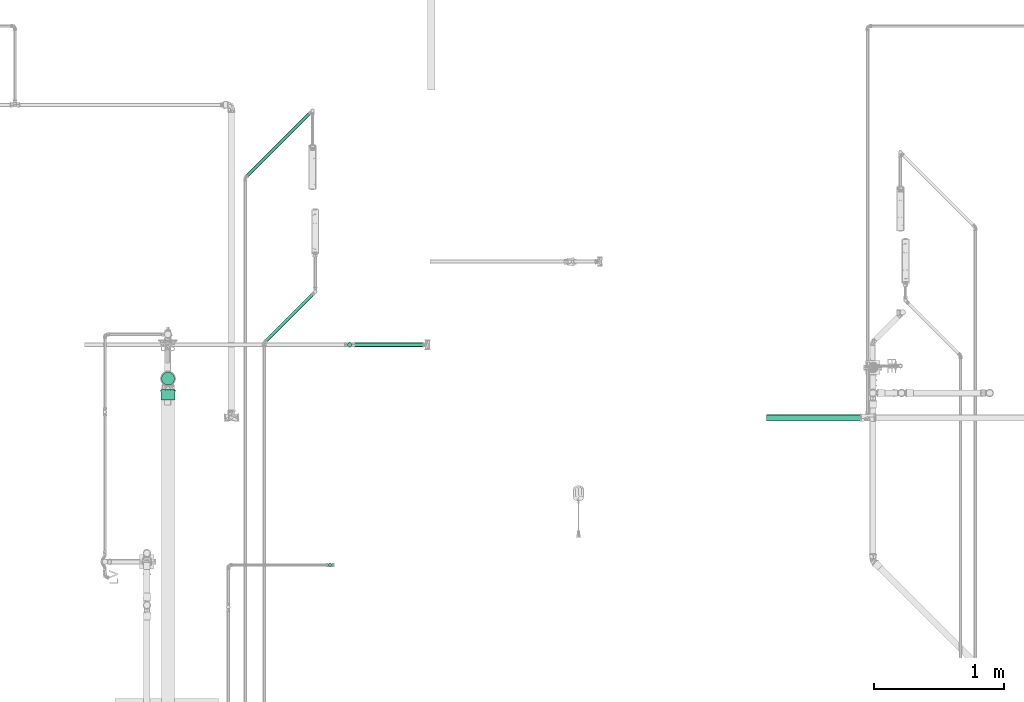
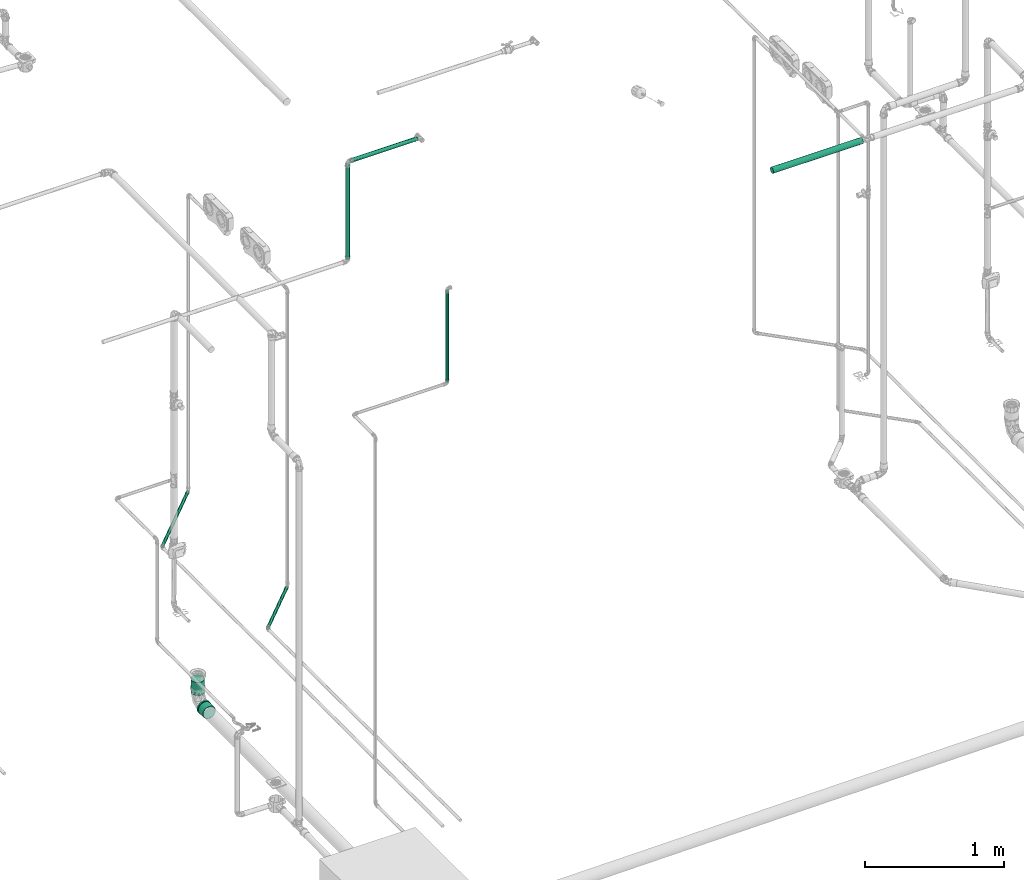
# One storey, part 60 of 589: 7 flow segments, 1 flow fitting.
"""IFC2X3 building model written with IfcOpenShell, lengths in millimetres."""

from ifc_helpers import new_model, entity, si_unit, converted_unit, derived_unit, direction, frame, frame_2d, origin, origin_2d_with_axis, place, context, subcontext, project, spatial, circle, extrude, faceted_brep, source, transform, mapped, material, type_object, type_shapes, element, save


model = new_model("IFC2X3")

# Units and contexts
model_context = context("Model", 3, precision=0.01, world=origin(), true_north=direction((6.123031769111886e-17, 1.0)))
body_context = subcontext(model_context, "Body", "Model", "MODEL_VIEW")
ifc_project = project(units=[si_unit("LENGTHUNIT", "METRE", prefix="MILLI"), si_unit("AREAUNIT", "SQUARE_METRE"), si_unit("VOLUMEUNIT", "CUBIC_METRE"), converted_unit("PLANEANGLEUNIT", "DEGREE", entity("IfcRatioMeasure", 0.017453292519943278), si_unit("PLANEANGLEUNIT", "RADIAN"), dimensions=[0, 0, 0, 0, 0, 0, 0]), si_unit("MASSUNIT", "GRAM", prefix="KILO"), derived_unit("MASSDENSITYUNIT", [(si_unit("MASSUNIT", "GRAM", prefix="KILO"), 1), (si_unit("LENGTHUNIT", "METRE"), -3)]), derived_unit("IONCONCENTRATIONUNIT", [(si_unit("MASSUNIT", "GRAM", prefix="KILO"), 1), (si_unit("LENGTHUNIT", "METRE"), -3)]), derived_unit("MOMENTOFINERTIAUNIT", [(si_unit("LENGTHUNIT", "METRE"), 4)]), si_unit("TIMEUNIT", "SECOND"), si_unit("FREQUENCYUNIT", "HERTZ"), si_unit("THERMODYNAMICTEMPERATUREUNIT", "DEGREE_CELSIUS"), derived_unit("THERMALTRANSMITTANCEUNIT", [(si_unit("MASSUNIT", "GRAM", prefix="KILO"), 1), (si_unit("THERMODYNAMICTEMPERATUREUNIT", "KELVIN"), -1), (si_unit("TIMEUNIT", "SECOND"), -3)]), derived_unit("THERMALCONDUCTANCEUNIT", [(si_unit("MASSUNIT", "GRAM", prefix="KILO"), 1), (si_unit("THERMODYNAMICTEMPERATUREUNIT", "KELVIN"), -1), (si_unit("TIMEUNIT", "SECOND"), -3), (si_unit("LENGTHUNIT", "METRE"), 1)]), derived_unit("VOLUMETRICFLOWRATEUNIT", [(si_unit("LENGTHUNIT", "METRE"), 3), (si_unit("TIMEUNIT", "SECOND"), -1)]), derived_unit("MASSFLOWRATEUNIT", [(si_unit("MASSUNIT", "GRAM", prefix="KILO"), 1), (si_unit("TIMEUNIT", "SECOND"), -1)]), derived_unit("ROTATIONALFREQUENCYUNIT", [(si_unit("TIMEUNIT", "SECOND"), -1)]), si_unit("ELECTRICCURRENTUNIT", "AMPERE"), si_unit("ELECTRICVOLTAGEUNIT", "VOLT"), si_unit("POWERUNIT", "WATT"), si_unit("FORCEUNIT", "NEWTON", prefix="KILO"), si_unit("ILLUMINANCEUNIT", "LUX"), si_unit("LUMINOUSFLUXUNIT", "LUMEN"), si_unit("LUMINOUSINTENSITYUNIT", "CANDELA"), derived_unit("USERDEFINED", [(si_unit("MASSUNIT", "GRAM", prefix="KILO"), -1), (si_unit("LENGTHUNIT", "METRE"), -2), (si_unit("TIMEUNIT", "SECOND"), 3), (si_unit("LUMINOUSFLUXUNIT", "LUMEN"), 1)]), derived_unit("USERDEFINED", [(si_unit("MASSUNIT", "GRAM", prefix="KILO"), 1), (si_unit("TIMEUNIT", "SECOND"), -3), (si_unit("LENGTHUNIT", "METRE"), 3), (si_unit("ELECTRICCURRENTUNIT", "AMPERE"), -2)]), derived_unit("SOUNDPOWERUNIT", [(si_unit("MASSUNIT", "GRAM", prefix="KILO"), 1), (si_unit("TIMEUNIT", "SECOND"), -3), (si_unit("LENGTHUNIT", "METRE"), 2)]), derived_unit("SOUNDPRESSUREUNIT", [(si_unit("MASSUNIT", "GRAM", prefix="KILO"), 1), (si_unit("LENGTHUNIT", "METRE"), -1), (si_unit("TIMEUNIT", "SECOND"), -2)]), derived_unit("LINEARVELOCITYUNIT", [(si_unit("LENGTHUNIT", "METRE"), 1), (si_unit("TIMEUNIT", "SECOND"), -1)]), si_unit("PRESSUREUNIT", "PASCAL"), derived_unit("USERDEFINED", [(si_unit("MASSUNIT", "GRAM", prefix="KILO"), 1), (si_unit("LENGTHUNIT", "METRE"), -2), (si_unit("TIMEUNIT", "SECOND"), -2)]), derived_unit("LINEARFORCEUNIT", [(si_unit("MASSUNIT", "GRAM", prefix="KILO"), 1), (si_unit("TIMEUNIT", "SECOND"), -2)]), derived_unit("PLANARFORCEUNIT", [(si_unit("MASSUNIT", "GRAM", prefix="KILO"), 1), (si_unit("LENGTHUNIT", "METRE"), -1), (si_unit("TIMEUNIT", "SECOND"), -2)]), derived_unit("SPECIFICHEATCAPACITYUNIT", [(si_unit("THERMODYNAMICTEMPERATUREUNIT", "KELVIN"), -1), (si_unit("LENGTHUNIT", "METRE"), 2), (si_unit("TIMEUNIT", "SECOND"), -2)]), derived_unit("HEATINGVALUEUNIT", [(si_unit("LENGTHUNIT", "METRE"), 2), (si_unit("TIMEUNIT", "SECOND"), -2)]), derived_unit("VAPORPERMEABILITYUNIT", [(si_unit("LENGTHUNIT", "METRE"), -1), (si_unit("TIMEUNIT", "SECOND"), 1)]), derived_unit("DYNAMICVISCOSITYUNIT", [(si_unit("MASSUNIT", "GRAM", prefix="KILO"), 1), (si_unit("TIMEUNIT", "SECOND"), -1), (si_unit("LENGTHUNIT", "METRE"), -1)]), derived_unit("THERMALEXPANSIONCOEFFICIENTUNIT", [(si_unit("THERMODYNAMICTEMPERATUREUNIT", "KELVIN"), -1)]), derived_unit("MODULUSOFELASTICITYUNIT", [(si_unit("MASSUNIT", "GRAM", prefix="KILO"), 1), (si_unit("LENGTHUNIT", "METRE"), -1), (si_unit("TIMEUNIT", "SECOND"), -2)]), derived_unit("ISOTHERMALMOISTURECAPACITYUNIT", [(si_unit("LENGTHUNIT", "METRE"), 3), (si_unit("MASSUNIT", "GRAM", prefix="KILO"), -1)]), derived_unit("MOISTUREDIFFUSIVITYUNIT", [(si_unit("TIMEUNIT", "SECOND"), -1), (si_unit("LENGTHUNIT", "METRE"), 2)])], contexts=[model_context])

# Site, building, storey
site_placement = place(None, origin())
site = spatial("IfcSite", under=ifc_project, at=site_placement, Name="Default", CompositionType="ELEMENT")
building_placement = place(site_placement, origin())
building = spatial("IfcBuilding", under=site, at=building_placement, CompositionType="ELEMENT")
storey_placement = place(building_placement, frame((0.0, 0.0, 100.0)))
storey = spatial("IfcBuildingStorey", under=building, at=storey_placement, Name="TÉRREO", CompositionType="ELEMENT", Elevation=100.0)

# Flow segments
pipe_segment_type_1 = type_object("IfcPipeSegmentType", Name="Tipos de tubos:PVC Esgoto Série Normal", PredefinedType="NOTDEFINED")
flow_segment_1_placement = place(storey_placement, origin())
element("IfcFlowSegment", 1, at=flow_segment_1_placement, inside=storey, type_object=pipe_segment_type_1, Name="Tipos de tubos:PVC Esgoto Série Normal", ObjectType="Tipos de tubos:PVC Esgoto Série Normal", context=body_context, shape_type="SweptSolid", body=[
    extrude(circle(Radius=50.0, at=frame_2d((-2.7071678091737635e-13, -1.4073625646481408e-21), x_axis=(1.0, 0.0))), frame((2018.1304628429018, -8312.525420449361, -164.99954371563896), z_axis=(0.00010196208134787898, -5.098613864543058e-05, 0.9999999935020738), x_axis=(0.999999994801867, 0.0, -0.0001019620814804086)), (0.0, 0.0, 1.0), 114.99954446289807),
])
pipe_segment_type_2 = type_object("IfcPipeSegmentType", Name="Tipos de tubos:PVC Marrom Soldável", PredefinedType="NOTDEFINED")
flow_segment_2_placement = place(storey_placement, origin())
element("IfcFlowSegment", 2, at=flow_segment_2_placement, inside=storey, type_object=pipe_segment_type_2, Name="Tipos de tubos:PVC Marrom Soldável", ObjectType="Tipos de tubos:PVC Marrom Soldável", context=body_context, shape_type="SweptSolid", body=[
    extrude(circle(Radius=25.0, at=frame_2d((0.0, 5.414335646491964e-13), x_axis=(1.0, 0.0))), frame((6628.155868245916, -8612.531283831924, 2995.0), z_axis=(1.0, 0.0, 0.0), x_axis=(0.0, -1.0, 0.0)), (0.0, 0.0, 1.0), 748.1868170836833),
])
flow_segment_3_placement = place(storey_placement, origin())
element("IfcFlowSegment", 3, at=flow_segment_3_placement, inside=storey, type_object=pipe_segment_type_2, Name="Tipos de tubos:PVC Marrom Soldável", ObjectType="Tipos de tubos:PVC Marrom Soldável", context=body_context, shape_type="SweptSolid", body=[
    extrude(circle(Radius=16.0, at=origin_2d_with_axis()), frame((3437.362959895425, -8050.83648067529, 3855.0), z_axis=(1.0, 0.0, 0.0), x_axis=(0.0, -1.0, 0.0)), (0.0, 0.0, 1.0), 559.7529083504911),
])
flow_segment_4_placement = place(storey_placement, origin())
element("IfcFlowSegment", 4, at=flow_segment_4_placement, inside=storey, type_object=pipe_segment_type_2, Name="Tipos de tubos:PVC Marrom Soldável", ObjectType="Tipos de tubos:PVC Marrom Soldável", context=body_context, shape_type="SweptSolid", body=[
    extrude(circle(Radius=16.0, at=frame_2d((0.0, 1.0828671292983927e-12), x_axis=(1.0, 0.0))), frame((3417.8629598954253, -8050.83648067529, 2999.5000000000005)), (0.0, 0.0, 1.0), 835.9999999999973),
])
flow_segment_5_placement = place(storey_placement, origin())
element("IfcFlowSegment", 5, at=flow_segment_5_placement, inside=storey, type_object=pipe_segment_type_2, Name="Tipos de tubos:PVC Marrom Soldável", ObjectType="Tipos de tubos:PVC Marrom Soldável", context=body_context, shape_type="SweptSolid", body=[
    extrude(circle(Radius=12.5, at=origin_2d_with_axis()), frame((3266.9385118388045, -9748.29603442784, 3000.2999999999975)), (0.0, 0.0, 1.0), 804.2999999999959),
])
flow_segment_6_placement = place(storey_placement, origin())
element("IfcFlowSegment", 6, at=flow_segment_6_placement, inside=storey, type_object=pipe_segment_type_2, Name="Tipos de tubos:PVC Marrom Soldável", ObjectType="Tipos de tubos:PVC Marrom Soldável", context=body_context, shape_type="SweptSolid", body=[
    extrude(circle(Radius=12.5, at=frame_2d((7.656945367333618e-13, 4.650327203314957e-08), x_axis=(1.0, 0.0))), frame((2764.780164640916, -8029.397160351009, -37.35698022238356), z_axis=(0.7071067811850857, 0.7071067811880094, 0.0), x_axis=(-0.7071067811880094, 0.7071067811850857, 0.0)), (0.0, 0.0, 1.0), 530.9461792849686),
])
flow_segment_7_placement = place(storey_placement, origin())
element("IfcFlowSegment", 7, at=flow_segment_7_placement, inside=storey, type_object=pipe_segment_type_2, Name="Tipos de tubos:PVC Marrom Soldável", ObjectType="Tipos de tubos:PVC Marrom Soldável", context=body_context, shape_type="SweptSolid", body=[
    extrude(circle(Radius=12.5, at=frame_2d((-1.0886246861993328e-17, 6.208930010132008e-08), x_axis=(1.0, 0.0))), frame((2618.120012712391, -6760.844861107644, -37.357145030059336), z_axis=(0.707106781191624, 0.7071067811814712, 0.0), x_axis=(-0.7071067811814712, 0.707106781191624, 0.0)), (0.0, 0.0, 1.0), 708.8979296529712),
])

# Flow fitting
ifc_material = material(Name="PVC Série Normal")
pipe_fitting_type = type_object("IfcPipeFittingType", Name="PVC Esgoto_Luva Simples para Conexão_Rodrigo MEP:Standard", PredefinedType="NOTDEFINED", material=ifc_material)
shared_shape = source(origin(), body_context, "Body", "Brep", [
    faceted_brep([(17.770000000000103, 28.72500000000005, -49.753159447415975), (17.770000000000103, 40.62328457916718, -40.62328457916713), (17.770000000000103, 26.524999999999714, -45.94264767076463), (17.770000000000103, 13.730350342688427, -51.242365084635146), (17.770000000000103, 14.86915414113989, -55.49243872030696), (17.770000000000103, 37.5120147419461, -37.51201474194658), (17.770000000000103, 49.75315944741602, -28.724999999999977), (17.770000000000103, 45.94264767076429, -26.52500000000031), (17.770000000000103, 51.24236508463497, -13.730350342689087), (17.770000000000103, 55.49243872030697, -14.869154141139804), (17.770000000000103, 53.05, 0.0), (17.770000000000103, 57.45, 0.0), (17.770000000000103, 51.242365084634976, 13.730350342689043), (17.770000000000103, 55.49243872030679, 14.869154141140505), (17.770000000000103, 45.942647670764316, 26.52500000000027), (17.770000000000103, 49.753159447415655, 28.725000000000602), (17.770000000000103, 37.51201474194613, 37.51201474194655), (17.770000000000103, 40.62328457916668, 40.62328457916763), (17.770000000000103, 26.524999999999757, 45.9426476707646), (17.770000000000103, 28.72499999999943, 49.75315944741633), (17.770000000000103, 13.730350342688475, 51.24236508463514), (17.770000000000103, 14.8691541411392, 55.49243872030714), (17.770000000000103, 0.0, 53.05), (17.770000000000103, 0.0, 57.45), (17.770000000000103, -13.730350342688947, 51.24236508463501), (17.770000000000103, -14.869154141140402, 55.49243872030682), (17.770000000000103, -26.52500000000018, 45.94264767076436), (17.770000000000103, -28.725000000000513, 49.753159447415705), (17.770000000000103, -37.51201474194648, 37.5120147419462), (17.770000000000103, -40.62328457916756, 40.62328457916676), (17.770000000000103, -45.94264767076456, 26.524999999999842), (17.770000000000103, -49.7531594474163, 28.724999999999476), (17.770000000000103, -55.49243872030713, 14.869154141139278), (17.770000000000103, -51.24236508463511, 13.730350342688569), (17.770000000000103, -57.45, 0.0), (17.770000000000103, -53.05, 0.0), (17.770000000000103, -55.49243872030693, -14.86915414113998), (17.770000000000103, -51.24236508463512, -13.73035034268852), (17.770000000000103, -49.75315944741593, -28.72500000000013), (17.770000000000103, -45.942647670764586, -26.5249999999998), (17.770000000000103, -40.62328457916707, -40.62328457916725), (17.770000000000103, -37.512014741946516, -37.51201474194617), (17.770000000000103, -28.724999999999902, -49.75315944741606), (17.770000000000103, -26.525000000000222, -45.94264767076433), (17.770000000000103, -14.869154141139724, -55.492438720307), (17.770000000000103, -13.730350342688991, -51.242365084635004), (17.770000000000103, 0.0, -57.45), (17.770000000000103, 0.0, -53.05), (6.570000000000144, -19.34638876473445, 53.16657713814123), (6.57000000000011, -44.00761900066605, 36.93009572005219), (6.5700000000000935, -48.99626263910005, 28.290173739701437), (6.5700000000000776, -53.98490627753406, 19.65025175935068), (6.570000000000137, -28.721697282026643, 49.75506612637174), (6.570000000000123, -36.36465814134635, 43.34258092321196), (6.57000000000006, -55.71745313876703, 9.825125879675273), (6.570000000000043, -57.45, 0.0), (6.570000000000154, -9.971080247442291, 56.57808814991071), (6.570000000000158, 9.98234714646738, 56.576101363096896), (6.570000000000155, 0.005633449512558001, 56.577094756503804), (6.570000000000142, 36.37328876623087, 43.33533831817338), (6.570000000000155, 19.356976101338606, 53.16272339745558), (6.570000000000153, 28.73160505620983, 49.749345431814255), (6.5700000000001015, 53.988818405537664, 19.639500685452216), (6.570000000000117, 49.00189544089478, 28.280415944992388), (6.570000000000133, 44.01497247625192, 36.921331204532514), (6.570000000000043, 57.45, 0.0), (6.569999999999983, 44.01497247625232, -36.92133120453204), (6.569999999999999, 49.0018954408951, -28.280415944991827), (6.570000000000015, 53.98881840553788, -19.63950068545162), (6.569999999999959, 28.731605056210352, -49.74934543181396), (6.569999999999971, 36.37328876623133, -43.335338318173), (6.569999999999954, 19.35697610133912, -53.16272339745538), (6.569999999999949, 9.982347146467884, -56.57610136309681), (6.569999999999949, -9.97108024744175, -56.578088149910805), (6.569999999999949, 0.005633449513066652, -56.577094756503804), (6.569999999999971, -36.364658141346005, -43.34258092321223), (6.56999999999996, -28.72169728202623, -49.755066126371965), (6.569999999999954, -19.346388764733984, -53.16657713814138), (6.57000000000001, -53.984906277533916, -19.650251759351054), (6.569999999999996, -48.99626263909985, -28.290173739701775), (6.569999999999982, -44.007619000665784, -36.93009572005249), (6.570000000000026, -55.717453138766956, -9.825125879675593), (83.52000000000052, 26.525000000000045, -45.942647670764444), (83.52000000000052, 37.512014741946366, -37.51201474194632), (83.52000000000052, 25.0, -43.301270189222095), (83.52000000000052, 12.940952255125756, -48.2962913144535), (83.52000000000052, 13.73035034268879, -51.242365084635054), (83.52000000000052, 35.35533905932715, -35.355339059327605), (83.52000000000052, 45.94264767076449, -26.524999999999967), (83.52000000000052, 43.30127018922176, -25.0), (83.52000000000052, 48.29629131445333, -12.940952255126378), (83.52000000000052, 51.24236508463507, -13.730350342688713), (83.52000000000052, 50.0, 0.0), (83.52000000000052, 53.05, 0.0), (83.52000000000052, 48.296291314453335, 12.940952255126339), (83.52000000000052, 51.2423650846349, 13.73035034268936), (83.52000000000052, 43.30127018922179, 25.0), (83.52000000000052, 45.942647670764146, 26.525000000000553), (83.52000000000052, 35.35533905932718, 35.35533905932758), (83.52000000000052, 37.512014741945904, 37.512014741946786), (83.52000000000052, 25.0, 43.301270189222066), (83.52000000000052, 26.52499999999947, 45.94264767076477), (83.52000000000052, 12.9409522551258, 48.29629131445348), (83.52000000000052, 13.730350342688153, 51.242365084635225), (83.52000000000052, 0.0, 50.0), (83.52000000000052, 0.0, 53.05), (83.52000000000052, -12.94095225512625, 48.296291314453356), (83.52000000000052, -13.730350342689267, 51.24236508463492), (83.52000000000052, -25.0, 43.30127018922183), (83.52000000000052, -26.525000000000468, 45.942647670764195), (83.52000000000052, -35.355339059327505, 35.35533905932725), (83.52000000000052, -37.512014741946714, 37.51201474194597), (83.52000000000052, -43.30127018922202, 25.0), (83.52000000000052, -45.942647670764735, 26.524999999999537), (83.52000000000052, -51.24236508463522, 13.730350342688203), (83.52000000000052, -48.29629131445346, 12.94095225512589), (83.52000000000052, -53.05, 0.0), (83.52000000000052, -50.0, 0.0), (83.52000000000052, -51.242365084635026, -13.730350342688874), (83.52000000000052, -48.29629131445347, -12.940952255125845), (83.52000000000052, -45.9426476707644, -26.525000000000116), (83.52000000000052, -43.301270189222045, -25.0), (83.52000000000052, -37.51201474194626, -37.51201474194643), (83.52000000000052, -35.35533905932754, -35.355339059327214), (83.52000000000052, -26.524999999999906, -45.94264767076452), (83.52000000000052, -25.0, -43.30127018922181), (83.52000000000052, -13.730350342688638, -51.2423650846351), (83.52000000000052, -12.94095225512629, -48.29629131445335), (83.52000000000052, 0.0, -53.05), (83.52000000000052, 0.0, -50.0), (0.0, 25.0, -43.301270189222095), (0.0, 37.512014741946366, -37.51201474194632), (0.0, 26.525000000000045, -45.942647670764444), (0.0, 12.940952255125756, -48.2962913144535), (0.0, 35.35533905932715, -35.355339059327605), (0.0, 45.94264767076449, -26.524999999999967), (0.0, 43.30127018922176, -25.0), (0.0, 48.29629131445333, -12.940952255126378), (0.0, 51.24236508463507, -13.730350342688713), (0.0, 50.0, 0.0), (0.0, 53.05, 0.0), (0.0, 48.296291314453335, 12.940952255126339), (0.0, 51.2423650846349, 13.73035034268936), (0.0, 43.30127018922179, 25.0), (0.0, 45.942647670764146, 26.525000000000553), (0.0, 35.35533905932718, 35.35533905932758), (0.0, 37.512014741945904, 37.512014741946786), (0.0, 25.0, 43.301270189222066), (0.0, 26.52499999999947, 45.94264767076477), (0.0, 12.9409522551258, 48.29629131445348), (0.0, 13.730350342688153, 51.242365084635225), (0.0, 0.0, 50.0), (0.0, 0.0, 53.05), (0.0, -12.94095225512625, 48.296291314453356), (0.0, -13.730350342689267, 51.24236508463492), (0.0, -25.0, 43.30127018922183), (0.0, -26.525000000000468, 45.942647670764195), (0.0, -35.355339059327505, 35.35533905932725), (0.0, -37.512014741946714, 37.51201474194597), (0.0, -43.30127018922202, 25.0), (0.0, -45.942647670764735, 26.524999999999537), (0.0, -51.24236508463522, 13.730350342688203), (0.0, -48.29629131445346, 12.94095225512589), (0.0, -53.05, 0.0), (0.0, -50.0, 0.0), (0.0, -51.242365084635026, -13.730350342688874), (0.0, -48.29629131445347, -12.940952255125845), (0.0, -45.9426476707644, -26.525000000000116), (0.0, -43.301270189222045, -25.0), (0.0, -37.51201474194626, -37.51201474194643), (0.0, -35.35533905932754, -35.355339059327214), (0.0, -26.524999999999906, -45.94264767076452), (0.0, -25.0, -43.30127018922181), (0.0, -13.730350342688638, -51.2423650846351), (0.0, -12.94095225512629, -48.29629131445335), (0.0, 0.0, -53.05), (0.0, 0.0, -50.0), (0.0, 13.73035034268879, -51.242365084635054), (5.370000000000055, -53.05, 0.0), (5.370000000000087, -49.85079898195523, 18.143878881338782), (5.370000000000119, -40.63905406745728, 34.09941032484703), (5.370000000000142, -26.525801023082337, 45.942185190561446), (5.3700000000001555, -9.213250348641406, 52.24383712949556), (5.370000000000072, 51.44992493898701, 9.073243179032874), (5.370000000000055, 53.05, 0.0), (5.370000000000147, 26.523397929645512, 45.943572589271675), (5.370000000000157, 9.210517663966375, 52.244318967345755), (5.3700000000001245, 40.63727040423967, 34.10153594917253), (5.370000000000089, 49.84984987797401, 18.146486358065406), (5.370000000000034, 51.4499249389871, -9.073243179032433), (5.370000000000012, 49.84984987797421, -18.146486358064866), (5.369999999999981, 40.63727040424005, -34.101535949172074), (5.36999999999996, 26.523397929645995, -45.9435725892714), (5.369999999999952, 9.21051766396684, -52.24431896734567), (5.369999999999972, -26.52580102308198, -45.94218519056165), (5.369999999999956, -9.213250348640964, -52.24383712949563), (5.369999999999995, -40.63905406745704, -34.099410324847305), (5.370000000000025, -49.8507989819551, -18.143878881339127), (50.0, -50.0, 0.0), (50.0, 50.0, 0.0)], [[[0, 1, 2]], [[0, 2, 3]], [[3, 4, 0]], [[2, 1, 5]], [[6, 5, 1]], [[5, 6, 7]], [[7, 6, 8]], [[9, 8, 6]], [[9, 10, 8]], [[10, 9, 11]], [[12, 10, 11]], [[11, 13, 12]], [[12, 13, 14]], [[15, 14, 13]], [[14, 15, 16]], [[16, 15, 17]], [[18, 16, 17]], [[17, 19, 18]], [[18, 19, 20]], [[21, 20, 19]], [[20, 21, 22]], [[22, 21, 23]], [[22, 23, 24]], [[24, 23, 25]], [[24, 25, 26]], [[27, 26, 25]], [[27, 28, 26]], [[28, 27, 29]], [[29, 30, 28]], [[31, 30, 29]], [[30, 31, 32]], [[32, 33, 30]], [[34, 33, 32]], [[34, 35, 33]], [[36, 35, 34]], [[36, 37, 35]], [[37, 36, 38]], [[38, 39, 37]], [[39, 38, 40]], [[39, 40, 41]], [[40, 42, 41]], [[41, 42, 43]], [[43, 42, 44]], [[44, 45, 43]], [[46, 45, 44]], [[4, 47, 46]], [[46, 47, 45]], [[4, 3, 47]], [[48, 27, 25]], [[31, 29, 49]], [[31, 49, 50, 51]], [[52, 53, 27]], [[32, 51, 54]], [[54, 55, 34]], [[54, 34, 32]], [[25, 56, 48]], [[49, 29, 53]], [[23, 57, 58, 56]], [[59, 19, 17]], [[27, 53, 29]], [[48, 52, 27]], [[31, 51, 32]], [[57, 23, 21]], [[60, 19, 61]], [[15, 62, 63, 64]], [[19, 60, 21]], [[15, 13, 62]], [[17, 64, 59]], [[57, 21, 60]], [[23, 56, 25]], [[15, 64, 17]], [[13, 65, 62]], [[13, 11, 65]], [[59, 61, 19]], [[65, 11, 9]], [[6, 1, 66]], [[6, 66, 67, 68]], [[69, 70, 0]], [[68, 65, 9]], [[71, 69, 0]], [[71, 0, 4]], [[4, 72, 71]], [[66, 1, 70]], [[46, 73, 74, 72]], [[75, 76, 42]], [[0, 70, 1]], [[75, 42, 40]], [[6, 68, 9]], [[73, 46, 44]], [[77, 42, 76]], [[38, 78, 79, 80]], [[42, 77, 44]], [[38, 36, 78]], [[40, 80, 75]], [[73, 44, 77]], [[46, 72, 4]], [[38, 80, 40]], [[81, 78, 36]], [[55, 81, 34]], [[34, 81, 36]], [[82, 83, 84]], [[82, 84, 85]], [[85, 86, 82]], [[84, 83, 87]], [[88, 87, 83]], [[87, 88, 89]], [[89, 88, 90]], [[91, 90, 88]], [[91, 92, 90]], [[92, 91, 93]], [[94, 92, 93]], [[93, 95, 94]], [[94, 95, 96]], [[97, 96, 95]], [[96, 97, 98]], [[98, 97, 99]], [[100, 98, 99]], [[99, 101, 100]], [[100, 101, 102]], [[103, 102, 101]], [[102, 103, 104]], [[104, 103, 105]], [[104, 105, 106]], [[106, 105, 107]], [[106, 107, 108]], [[109, 108, 107]], [[110, 108, 109]], [[110, 109, 111]], [[111, 112, 110]], [[113, 112, 111]], [[112, 113, 114]], [[114, 115, 112]], [[116, 115, 114]], [[116, 117, 115]], [[118, 117, 116]], [[118, 119, 117]], [[119, 118, 120]], [[120, 121, 119]], [[121, 120, 122]], [[121, 122, 123]], [[122, 124, 123]], [[125, 123, 124]], [[125, 124, 126]], [[126, 127, 125]], [[128, 127, 126]], [[86, 129, 128]], [[128, 129, 127]], [[86, 85, 129]], [[130, 131, 132]], [[133, 130, 132]], [[134, 131, 130]], [[131, 134, 135]], [[136, 135, 134]], [[137, 135, 136]], [[135, 137, 138]], [[137, 139, 138]], [[140, 138, 139]], [[140, 139, 141]], [[141, 142, 140]], [[143, 142, 141]], [[142, 143, 144]], [[145, 144, 143]], [[146, 144, 145]], [[146, 145, 147]], [[147, 148, 146]], [[149, 148, 147]], [[148, 149, 150]], [[151, 150, 149]], [[152, 150, 151]], [[153, 152, 151]], [[154, 152, 153]], [[155, 154, 153]], [[154, 155, 156]], [[156, 155, 157]], [[158, 156, 157]], [[157, 159, 158]], [[158, 159, 160]], [[161, 160, 159]], [[159, 162, 161]], [[161, 162, 163]], [[162, 164, 163]], [[163, 164, 165]], [[164, 166, 165]], [[167, 165, 166]], [[166, 168, 167]], [[169, 167, 168]], [[170, 169, 168]], [[170, 171, 169]], [[171, 170, 172]], [[173, 171, 172]], [[172, 174, 173]], [[173, 174, 175]], [[174, 176, 175]], [[176, 133, 177]], [[175, 176, 177]], [[132, 177, 133]], [[161, 178, 179]], [[158, 180, 181]], [[179, 180, 160]], [[181, 182, 154]], [[179, 160, 161]], [[161, 163, 178]], [[35, 116, 114, 33]], [[183, 184, 140]], [[181, 156, 158]], [[158, 160, 180]], [[181, 154, 156]], [[182, 152, 154]], [[183, 140, 142]], [[185, 150, 186]], [[187, 146, 185]], [[142, 188, 183]], [[187, 188, 144]], [[185, 148, 150]], [[150, 152, 186]], [[187, 144, 146]], [[146, 148, 185]], [[188, 142, 144]], [[186, 152, 182]], [[189, 190, 138]], [[131, 191, 192]], [[190, 191, 135]], [[192, 193, 177]], [[190, 135, 138]], [[184, 189, 140]], [[192, 132, 131]], [[131, 135, 191]], [[192, 177, 132]], [[193, 175, 177]], [[140, 189, 138]], [[194, 173, 195]], [[196, 169, 194]], [[165, 197, 178]], [[196, 197, 167]], [[165, 178, 163]], [[35, 37, 118, 116]], [[194, 171, 173]], [[173, 175, 195]], [[196, 167, 169]], [[169, 171, 194]], [[197, 165, 167]], [[195, 175, 193]], [[115, 117, 198, 164, 162]], [[155, 108, 110, 157]], [[110, 112, 159, 157]], [[112, 115, 162, 159]], [[106, 108, 155, 153]], [[153, 151, 104, 106]], [[102, 104, 151, 149]], [[102, 149, 147, 100]], [[141, 94, 96, 143]], [[96, 98, 145, 143]], [[98, 100, 147, 145]], [[92, 94, 141, 139, 199]], [[199, 139, 137, 90, 92]], [[87, 89, 136, 134]], [[134, 130, 84, 87]], [[89, 90, 137, 136]], [[85, 84, 130, 133]], [[133, 176, 129, 85]], [[127, 129, 176, 174]], [[127, 174, 172, 125]], [[166, 119, 121, 168]], [[121, 123, 170, 168]], [[123, 125, 172, 170]], [[117, 119, 166, 164, 198]], [[81, 178, 197]], [[190, 68, 67]], [[194, 75, 196]], [[193, 72, 74]], [[195, 77, 194]], [[79, 197, 196]], [[81, 55, 178]], [[192, 69, 71]], [[79, 78, 197]], [[194, 77, 76]], [[191, 66, 70]], [[80, 196, 75]], [[68, 190, 189]], [[74, 195, 193]], [[192, 71, 193]], [[190, 67, 191]], [[70, 192, 191]], [[65, 189, 184]], [[195, 73, 77]], [[193, 71, 72]], [[197, 78, 81]], [[191, 67, 66]], [[189, 65, 68]], [[196, 80, 79]], [[70, 69, 192]], [[194, 76, 75]], [[73, 195, 74]], [[65, 183, 62]], [[48, 56, 182]], [[58, 182, 56]], [[54, 51, 179]], [[59, 185, 61]], [[60, 186, 57]], [[53, 52, 181]], [[63, 187, 64]], [[58, 57, 186]], [[187, 63, 188]], [[186, 60, 185]], [[50, 49, 180]], [[185, 59, 187]], [[59, 64, 187]], [[182, 58, 186]], [[50, 179, 51]], [[54, 178, 55]], [[53, 180, 49]], [[63, 62, 188]], [[181, 48, 182]], [[183, 65, 184]], [[179, 50, 180]], [[178, 54, 179]], [[183, 188, 62]], [[180, 53, 181]], [[60, 61, 185]], [[48, 181, 52]], [[30, 33, 114, 113]], [[26, 28, 111, 109]], [[113, 111, 28, 30]], [[107, 24, 26, 109]], [[107, 105, 22, 24]], [[18, 20, 103, 101]], [[99, 16, 18, 101]], [[12, 14, 97, 95]], [[99, 97, 14, 16]], [[10, 12, 95, 93]], [[103, 20, 22, 105]], [[91, 8, 10, 93]], [[88, 7, 8, 91]], [[82, 86, 3, 2]], [[83, 5, 7, 88]], [[2, 5, 83, 82]], [[86, 128, 47, 3]], [[43, 45, 126, 124]], [[122, 41, 43, 124]], [[37, 39, 120, 118]], [[122, 120, 39, 41]], [[126, 45, 47, 128]]]),
])
type_shapes(pipe_fitting_type, [shared_shape])
flow_fitting_placement = place(storey_placement, frame((2018.1220902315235, -8394.635159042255, -247.52504391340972), z_axis=(-0.9999999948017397, -5.097847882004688e-07, 0.00010196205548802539), x_axis=(0.0, -0.9999875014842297, -0.0049996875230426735)))
element("IfcFlowFitting", 8, at=flow_fitting_placement, inside=storey, type_object=pipe_fitting_type, material=ifc_material, Name="PVC Esgoto_Luva Simples para Conexão_Rodrigo MEP:Standard", ObjectType="PVC Esgoto_Luva Simples para Conexão_Rodrigo MEP:Standard", context=body_context, shape_type="MappedRepresentation", body=[
    mapped(shared_shape, transform((0.0, 0.0, 0.0), scale=1.0)),
])

save(model, "model.ifc")
